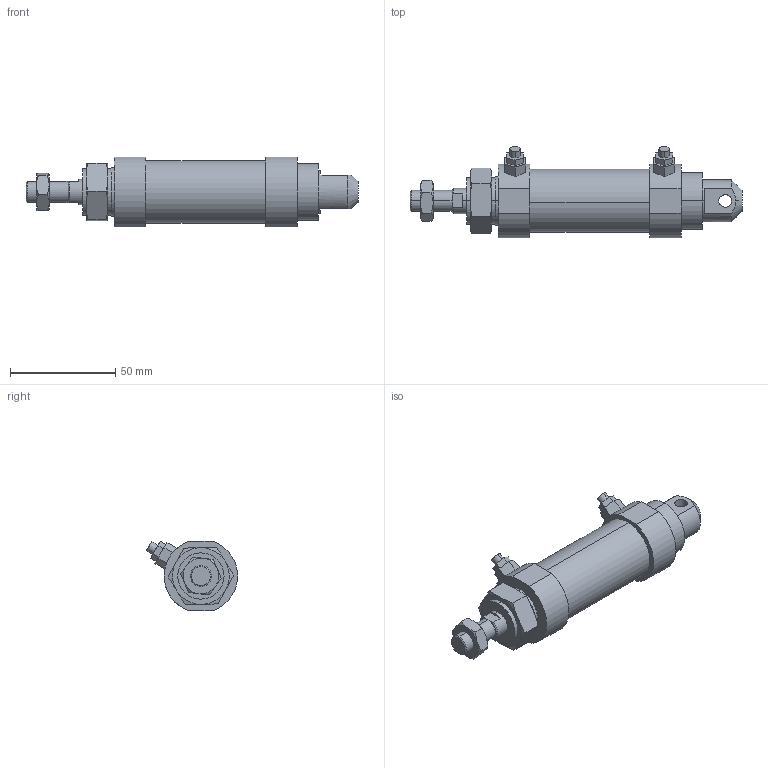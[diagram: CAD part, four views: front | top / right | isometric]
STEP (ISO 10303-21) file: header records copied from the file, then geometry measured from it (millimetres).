
FILE_DESCRIPTION (( 'STEP AP203' ), '1' );
FILE_NAME ('JG2-25-25-C.STEP', '2016-04-19T00:47:52', ( '' ), ( '' ), 'SwSTEP 2.0', 'SolidWorks 2014', '' );
FILE_SCHEMA (( 'CONFIG_CONTROL_DESIGN' ));
Length unit declared in the file: millimetre
Products named in the file (6): JG2-25-25-C; JG2-25B; 25-25; M22x1.5-10mm; JG2-25C; M10x1.5-6mm
Assembly tree (5 placements, depth 2):
  JG2-25-25-C
    JG2-25B
    25-25
    JG2-25C
    M10x1.5-6mm
    M22x1.5-10mm
Bounding box: 158 x 43.37 x 33 mm (x, y, z)
Volume: 90627.7 mm3; surface area: 22147.7 mm2
Topology: 5 solids, 5 shells, 143 faces, 326 edges, 204 vertices
Faces by surface type: plane 73, cylinder 32, torus 24, cone 14
Entity records: 4982 total; most frequent: CARTESIAN_POINT 1189, DIRECTION 666, ORIENTED_EDGE 644, EDGE_CURVE 322, AXIS2_PLACEMENT_3D 261, VERTEX_POINT 204, EDGE_LOOP 164, LINE 144
